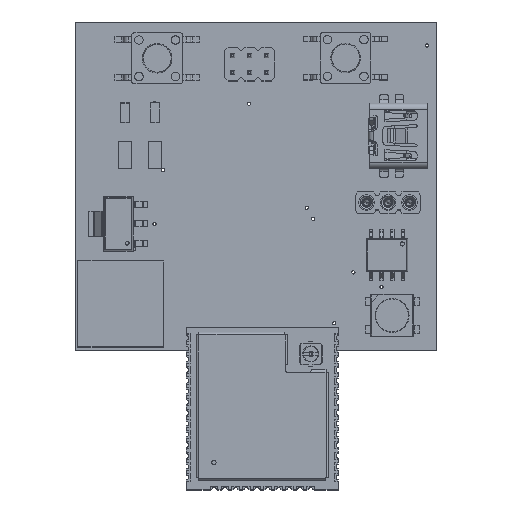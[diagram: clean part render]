
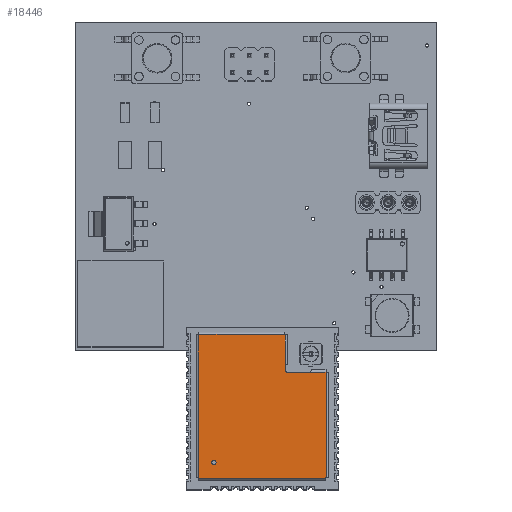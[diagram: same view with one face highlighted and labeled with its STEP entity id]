
A CAD part, top view. The second image highlights one B-rep face of the part: STEP entity #18446.
In plain terms, the highlighted planar face has unit normal (0, 0, 1) as drawn and (0, 1, 0) by its records, which use the part's own axes.
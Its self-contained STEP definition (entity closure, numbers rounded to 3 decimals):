
#18015 = VERTEX_POINT('',#18016);
#18016 = CARTESIAN_POINT('',(-5.735,3.2,9.76));
#18022 = EDGE_CURVE('',#18023,#18015,#18025,.T.);
#18023 = VERTEX_POINT('',#18024);
#18024 = CARTESIAN_POINT('',(-5.735,3.2,9.26));
#18025 = CIRCLE('',#18026,0.25);
#18026 = AXIS2_PLACEMENT_3D('',#18027,#18028,#18029);
#18027 = CARTESIAN_POINT('',(-5.735,3.2,9.51));
#18028 = DIRECTION('',(0.,1.,0.));
#18029 = DIRECTION('',(0.,0.,1.));
#18446 = ADVANCED_FACE('',(#18447,#18602),#18612,.T.);
#18447 = FACE_BOUND('',#18448,.T.);
#18448 = EDGE_LOOP('',(#18449,#18459,#18467,#18476,#18484,#18492,#18500,
    #18508,#18516,#18524,#18532,#18540,#18548,#18556,#18564,#18572,
    #18580,#18588,#18596));
#18449 = ORIENTED_EDGE('',*,*,#18450,.T.);
#18450 = EDGE_CURVE('',#18451,#18453,#18455,.T.);
#18451 = VERTEX_POINT('',#18452);
#18452 = CARTESIAN_POINT('',(7.525,3.2,-1.2));
#18453 = VERTEX_POINT('',#18454);
#18454 = CARTESIAN_POINT('',(5.577,3.2,-1.2));
#18455 = LINE('',#18456,#18457);
#18456 = CARTESIAN_POINT('',(2.925,3.2,-1.2));
#18457 = VECTOR('',#18458,1.);
#18458 = DIRECTION('',(-1.,0.,0.));
#18459 = ORIENTED_EDGE('',*,*,#18460,.F.);
#18460 = EDGE_CURVE('',#18461,#18453,#18463,.T.);
#18461 = VERTEX_POINT('',#18462);
#18462 = CARTESIAN_POINT('',(2.925,3.2,-1.2));
#18463 = LINE('',#18464,#18465);
#18464 = CARTESIAN_POINT('',(2.675,3.2,-1.2));
#18465 = VECTOR('',#18466,1.);
#18466 = DIRECTION('',(1.,0.,0.));
#18467 = ORIENTED_EDGE('',*,*,#18468,.T.);
#18468 = EDGE_CURVE('',#18461,#18469,#18471,.T.);
#18469 = VERTEX_POINT('',#18470);
#18470 = CARTESIAN_POINT('',(2.675,3.2,-1.45));
#18471 = CIRCLE('',#18472,0.25);
#18472 = AXIS2_PLACEMENT_3D('',#18473,#18474,#18475);
#18473 = CARTESIAN_POINT('',(2.925,3.2,-1.45));
#18474 = DIRECTION('',(0.,-1.,0.));
#18475 = DIRECTION('',(0.,0.,1.));
#18476 = ORIENTED_EDGE('',*,*,#18477,.T.);
#18477 = EDGE_CURVE('',#18469,#18478,#18480,.T.);
#18478 = VERTEX_POINT('',#18479);
#18479 = CARTESIAN_POINT('',(2.675,3.2,-1.863));
#18480 = LINE('',#18481,#18482);
#18481 = CARTESIAN_POINT('',(2.675,3.2,-5.6));
#18482 = VECTOR('',#18483,1.);
#18483 = DIRECTION('',(0.,0.,-1.));
#18484 = ORIENTED_EDGE('',*,*,#18485,.T.);
#18485 = EDGE_CURVE('',#18478,#18486,#18488,.T.);
#18486 = VERTEX_POINT('',#18487);
#18487 = CARTESIAN_POINT('',(2.675,3.2,-5.6));
#18488 = LINE('',#18489,#18490);
#18489 = CARTESIAN_POINT('',(2.675,3.2,-5.6));
#18490 = VECTOR('',#18491,1.);
#18491 = DIRECTION('',(0.,0.,-1.));
#18492 = ORIENTED_EDGE('',*,*,#18493,.F.);
#18493 = EDGE_CURVE('',#18494,#18486,#18496,.T.);
#18494 = VERTEX_POINT('',#18495);
#18495 = CARTESIAN_POINT('',(2.625,3.2,-5.6));
#18496 = LINE('',#18497,#18498);
#18497 = CARTESIAN_POINT('',(2.925,3.2,-5.6));
#18498 = VECTOR('',#18499,1.);
#18499 = DIRECTION('',(1.,0.,0.));
#18500 = ORIENTED_EDGE('',*,*,#18501,.F.);
#18501 = EDGE_CURVE('',#18502,#18494,#18504,.T.);
#18502 = VERTEX_POINT('',#18503);
#18503 = CARTESIAN_POINT('',(2.625,3.2,-5.65));
#18504 = LINE('',#18505,#18506);
#18505 = CARTESIAN_POINT('',(2.625,3.2,-5.9));
#18506 = VECTOR('',#18507,1.);
#18507 = DIRECTION('',(0.,0.,1.));
#18508 = ORIENTED_EDGE('',*,*,#18509,.T.);
#18509 = EDGE_CURVE('',#18502,#18510,#18512,.T.);
#18510 = VERTEX_POINT('',#18511);
#18511 = CARTESIAN_POINT('',(-7.523,3.2,-5.65));
#18512 = LINE('',#18513,#18514);
#18513 = CARTESIAN_POINT('',(0.,3.2,-5.65));
#18514 = VECTOR('',#18515,1.);
#18515 = DIRECTION('',(-1.,0.,0.));
#18516 = ORIENTED_EDGE('',*,*,#18517,.F.);
#18517 = EDGE_CURVE('',#18518,#18510,#18520,.T.);
#18518 = VERTEX_POINT('',#18519);
#18519 = CARTESIAN_POINT('',(-7.523,3.2,-5.598));
#18520 = LINE('',#18521,#18522);
#18521 = CARTESIAN_POINT('',(-7.523,3.2,-5.9));
#18522 = VECTOR('',#18523,1.);
#18523 = DIRECTION('',(0.,0.,-1.));
#18524 = ORIENTED_EDGE('',*,*,#18525,.F.);
#18525 = EDGE_CURVE('',#18526,#18518,#18528,.T.);
#18526 = VERTEX_POINT('',#18527);
#18527 = CARTESIAN_POINT('',(-7.575,3.2,-5.598));
#18528 = LINE('',#18529,#18530);
#18529 = CARTESIAN_POINT('',(-7.825,3.2,-5.598));
#18530 = VECTOR('',#18531,1.);
#18531 = DIRECTION('',(1.,0.,0.));
#18532 = ORIENTED_EDGE('',*,*,#18533,.T.);
#18533 = EDGE_CURVE('',#18526,#18534,#18536,.T.);
#18534 = VERTEX_POINT('',#18535);
#18535 = CARTESIAN_POINT('',(-7.575,3.2,11.298));
#18536 = LINE('',#18537,#18538);
#18537 = CARTESIAN_POINT('',(-7.575,3.2,0.));
#18538 = VECTOR('',#18539,1.);
#18539 = DIRECTION('',(0.,0.,1.));
#18540 = ORIENTED_EDGE('',*,*,#18541,.F.);
#18541 = EDGE_CURVE('',#18542,#18534,#18544,.T.);
#18542 = VERTEX_POINT('',#18543);
#18543 = CARTESIAN_POINT('',(-7.523,3.2,11.298));
#18544 = LINE('',#18545,#18546);
#18545 = CARTESIAN_POINT('',(-7.825,3.2,11.298));
#18546 = VECTOR('',#18547,1.);
#18547 = DIRECTION('',(-1.,0.,0.));
#18548 = ORIENTED_EDGE('',*,*,#18549,.F.);
#18549 = EDGE_CURVE('',#18550,#18542,#18552,.T.);
#18550 = VERTEX_POINT('',#18551);
#18551 = CARTESIAN_POINT('',(-7.523,3.2,11.35));
#18552 = LINE('',#18553,#18554);
#18553 = CARTESIAN_POINT('',(-7.523,3.2,11.6));
#18554 = VECTOR('',#18555,1.);
#18555 = DIRECTION('',(0.,0.,-1.));
#18556 = ORIENTED_EDGE('',*,*,#18557,.T.);
#18557 = EDGE_CURVE('',#18550,#18558,#18560,.T.);
#18558 = VERTEX_POINT('',#18559);
#18559 = CARTESIAN_POINT('',(7.523,3.2,11.35));
#18560 = LINE('',#18561,#18562);
#18561 = CARTESIAN_POINT('',(0.,3.2,11.35));
#18562 = VECTOR('',#18563,1.);
#18563 = DIRECTION('',(1.,0.,0.));
#18564 = ORIENTED_EDGE('',*,*,#18565,.F.);
#18565 = EDGE_CURVE('',#18566,#18558,#18568,.T.);
#18566 = VERTEX_POINT('',#18567);
#18567 = CARTESIAN_POINT('',(7.523,3.2,11.298));
#18568 = LINE('',#18569,#18570);
#18569 = CARTESIAN_POINT('',(7.523,3.2,11.6));
#18570 = VECTOR('',#18571,1.);
#18571 = DIRECTION('',(0.,0.,1.));
#18572 = ORIENTED_EDGE('',*,*,#18573,.F.);
#18573 = EDGE_CURVE('',#18574,#18566,#18576,.T.);
#18574 = VERTEX_POINT('',#18575);
#18575 = CARTESIAN_POINT('',(7.575,3.2,11.298));
#18576 = LINE('',#18577,#18578);
#18577 = CARTESIAN_POINT('',(7.825,3.2,11.298));
#18578 = VECTOR('',#18579,1.);
#18579 = DIRECTION('',(-1.,0.,0.));
#18580 = ORIENTED_EDGE('',*,*,#18581,.T.);
#18581 = EDGE_CURVE('',#18574,#18582,#18584,.T.);
#18582 = VERTEX_POINT('',#18583);
#18583 = CARTESIAN_POINT('',(7.575,3.2,-1.15));
#18584 = LINE('',#18585,#18586);
#18585 = CARTESIAN_POINT('',(7.575,3.2,0.));
#18586 = VECTOR('',#18587,1.);
#18587 = DIRECTION('',(0.,0.,-1.));
#18588 = ORIENTED_EDGE('',*,*,#18589,.F.);
#18589 = EDGE_CURVE('',#18590,#18582,#18592,.T.);
#18590 = VERTEX_POINT('',#18591);
#18591 = CARTESIAN_POINT('',(7.525,3.2,-1.15));
#18592 = LINE('',#18593,#18594);
#18593 = CARTESIAN_POINT('',(7.825,3.2,-1.15));
#18594 = VECTOR('',#18595,1.);
#18595 = DIRECTION('',(1.,0.,0.));
#18596 = ORIENTED_EDGE('',*,*,#18597,.F.);
#18597 = EDGE_CURVE('',#18451,#18590,#18598,.T.);
#18598 = LINE('',#18599,#18600);
#18599 = CARTESIAN_POINT('',(7.525,3.2,-1.45));
#18600 = VECTOR('',#18601,1.);
#18601 = DIRECTION('',(0.,0.,1.));
#18602 = FACE_BOUND('',#18603,.T.);
#18603 = EDGE_LOOP('',(#18604,#18611));
#18604 = ORIENTED_EDGE('',*,*,#18605,.F.);
#18605 = EDGE_CURVE('',#18015,#18023,#18606,.T.);
#18606 = CIRCLE('',#18607,0.25);
#18607 = AXIS2_PLACEMENT_3D('',#18608,#18609,#18610);
#18608 = CARTESIAN_POINT('',(-5.735,3.2,9.51));
#18609 = DIRECTION('',(0.,1.,0.));
#18610 = DIRECTION('',(0.,0.,1.));
#18611 = ORIENTED_EDGE('',*,*,#18022,.F.);
#18612 = PLANE('',#18613);
#18613 = AXIS2_PLACEMENT_3D('',#18614,#18615,#18616);
#18614 = CARTESIAN_POINT('',(0.,3.2,0.));
#18615 = DIRECTION('',(0.,1.,0.));
#18616 = DIRECTION('',(0.,0.,1.));
